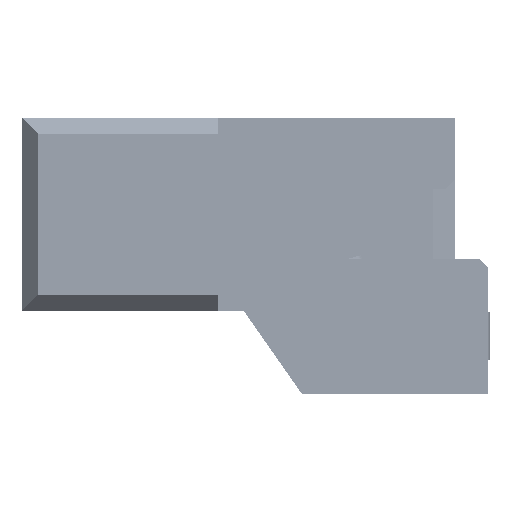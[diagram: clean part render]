
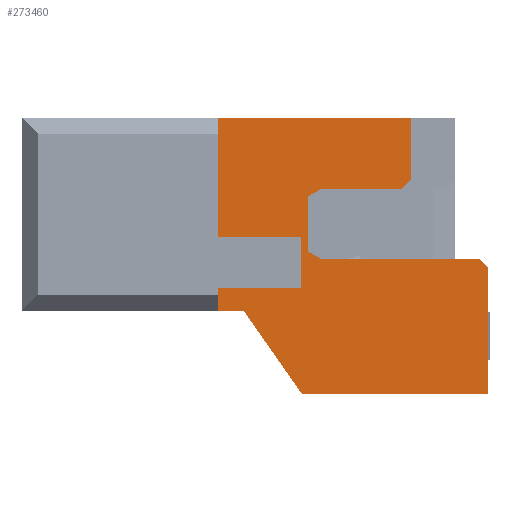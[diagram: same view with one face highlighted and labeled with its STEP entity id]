
A CAD part, left-side view. The second image highlights one B-rep face of the part: STEP entity #273460.
In plain terms, the highlighted planar face has unit normal (-1, 0, 0).
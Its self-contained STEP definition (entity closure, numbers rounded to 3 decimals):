
#2277=DIRECTION('',(0.,-1.,0.));
#2278=VECTOR('',#2277,6.03);
#2279=CARTESIAN_POINT('',(-36.5,2.8,3.));
#2280=LINE('',#2279,#2278);
#3883=DIRECTION('',(0.,0.,1.));
#3884=VECTOR('',#3883,0.7);
#3885=CARTESIAN_POINT('',(-36.5,2.8,-3.));
#3886=LINE('',#3885,#3884);
#3939=DIRECTION('',(0.,0.,1.));
#3940=VECTOR('',#3939,3.7);
#3941=CARTESIAN_POINT('',(-36.5,2.8,-0.7));
#3942=LINE('',#3941,#3940);
#3967=DIRECTION('',(0.,1.,0.));
#3968=VECTOR('',#3967,2.6);
#3969=CARTESIAN_POINT('',(-36.5,0.2,-2.3));
#3970=LINE('',#3969,#3968);
#3974=DIRECTION('',(0.,0.,-1.));
#3975=VECTOR('',#3974,1.6);
#3976=CARTESIAN_POINT('',(-36.5,0.2,-0.7));
#3977=LINE('',#3976,#3975);
#3981=DIRECTION('',(0.,-1.,0.));
#3982=VECTOR('',#3981,2.6);
#3983=CARTESIAN_POINT('',(-36.5,2.8,-0.7));
#3984=LINE('',#3983,#3982);
#3988=DIRECTION('',(0.,0.,1.));
#3989=VECTOR('',#3988,1.92);
#3990=CARTESIAN_POINT('',(-36.5,-3.23,1.08));
#3991=LINE('',#3990,#3989);
#3995=DIRECTION('',(0.,-0.707,0.707));
#3996=VECTOR('',#3995,0.424);
#3997=CARTESIAN_POINT('',(-36.5,-2.93,0.78));
#3998=LINE('',#3997,#3996);
#4002=DIRECTION('',(0.,-1.,0.));
#4003=VECTOR('',#4002,2.53);
#4004=CARTESIAN_POINT('',(-36.5,-0.4,0.78));
#4005=LINE('',#4004,#4003);
#4009=DIRECTION('',(0.,-0.866,0.5));
#4010=VECTOR('',#4009,0.462);
#4011=CARTESIAN_POINT('',(-36.5,0.,0.549));
#4012=LINE('',#4011,#4010);
#4016=DIRECTION('',(0.,0.,1.));
#4017=VECTOR('',#4016,1.698);
#4018=CARTESIAN_POINT('',(-36.5,0.,-1.149));
#4019=LINE('',#4018,#4017);
#4023=DIRECTION('',(0.,0.866,0.5));
#4024=VECTOR('',#4023,0.462);
#4025=CARTESIAN_POINT('',(-36.5,-0.4,-1.38));
#4026=LINE('',#4025,#4024);
#4030=DIRECTION('',(0.,1.,0.));
#4031=VECTOR('',#4030,4.93);
#4032=CARTESIAN_POINT('',(-36.5,-5.33,-1.38));
#4033=LINE('',#4032,#4031);
#4037=DIRECTION('',(0.,0.707,0.707));
#4038=VECTOR('',#4037,0.424);
#4039=CARTESIAN_POINT('',(-36.5,-5.63,-1.68));
#4040=LINE('',#4039,#4038);
#4044=DIRECTION('',(0.,0.,1.));
#4045=VECTOR('',#4044,3.92);
#4046=CARTESIAN_POINT('',(-36.5,-5.63,-5.6));
#4047=LINE('',#4046,#4045);
#4051=DIRECTION('',(0.,-1.,0.));
#4052=VECTOR('',#4051,5.809);
#4053=CARTESIAN_POINT('',(-36.5,0.179,-5.6));
#4054=LINE('',#4053,#4052);
#4058=DIRECTION('',(0.,-0.574,-0.819));
#4059=VECTOR('',#4058,3.174);
#4060=CARTESIAN_POINT('',(-36.5,2.,-3.));
#4061=LINE('',#4060,#4059);
#4065=DIRECTION('',(0.,-1.,0.));
#4066=VECTOR('',#4065,0.8);
#4067=CARTESIAN_POINT('',(-36.5,2.8,-3.));
#4068=LINE('',#4067,#4066);
#244604=CARTESIAN_POINT('',(-36.5,2.8,-0.7));
#244606=VERTEX_POINT('',#244604);
#244621=CARTESIAN_POINT('',(-36.5,-2.93,0.78));
#244622=CARTESIAN_POINT('',(-36.5,-3.23,1.08));
#244623=VERTEX_POINT('',#244621);
#244624=VERTEX_POINT('',#244622);
#244641=CARTESIAN_POINT('',(-36.5,2.8,-2.3));
#244643=VERTEX_POINT('',#244641);
#244645=CARTESIAN_POINT('',(-36.5,0.2,-0.7));
#244646=CARTESIAN_POINT('',(-36.5,0.2,-2.3));
#244647=VERTEX_POINT('',#244645);
#244648=VERTEX_POINT('',#244646);
#244653=CARTESIAN_POINT('',(-36.5,-0.4,-1.38));
#244654=CARTESIAN_POINT('',(-36.5,0.,-1.149));
#244655=VERTEX_POINT('',#244653);
#244656=VERTEX_POINT('',#244654);
#244667=CARTESIAN_POINT('',(-36.5,-0.4,0.78));
#244669=VERTEX_POINT('',#244667);
#244682=CARTESIAN_POINT('',(-36.5,2.,-3.));
#244684=VERTEX_POINT('',#244682);
#244687=CARTESIAN_POINT('',(-36.5,0.179,-5.6));
#244688=CARTESIAN_POINT('',(-36.5,-5.63,-5.6));
#244689=VERTEX_POINT('',#244687);
#244690=VERTEX_POINT('',#244688);
#244693=CARTESIAN_POINT('',(-36.5,-5.63,-1.68));
#244694=VERTEX_POINT('',#244693);
#244701=CARTESIAN_POINT('',(-36.5,0.,0.549));
#244702=VERTEX_POINT('',#244701);
#244703=CARTESIAN_POINT('',(-36.5,-5.33,-1.38));
#244704=VERTEX_POINT('',#244703);
#244906=CARTESIAN_POINT('',(-36.5,2.8,-3.));
#244907=VERTEX_POINT('',#244906);
#245227=CARTESIAN_POINT('',(-36.5,2.8,3.));
#245228=VERTEX_POINT('',#245227);
#245255=CARTESIAN_POINT('',(-36.5,-3.23,3.));
#245256=VERTEX_POINT('',#245255);
#273422=CARTESIAN_POINT('',(-36.5,2.8,12.822));
#273423=DIRECTION('',(1.,0.,0.));
#273424=DIRECTION('',(0.,0.,-1.));
#273425=AXIS2_PLACEMENT_3D('',#273422,#273423,#273424);
#273426=PLANE('',#273425);
#273427=ORIENTED_EDGE('',*,*,#273368,.T.);
#273429=ORIENTED_EDGE('',*,*,#273428,.F.);
#273430=ORIENTED_EDGE('',*,*,#273412,.F.);
#273432=ORIENTED_EDGE('',*,*,#273431,.F.);
#273433=ORIENTED_EDGE('',*,*,#273385,.T.);
#273434=ORIENTED_EDGE('',*,*,#272581,.T.);
#273436=ORIENTED_EDGE('',*,*,#273435,.F.);
#273438=ORIENTED_EDGE('',*,*,#273437,.F.);
#273439=ORIENTED_EDGE('',*,*,#272492,.F.);
#273441=ORIENTED_EDGE('',*,*,#273440,.F.);
#273443=ORIENTED_EDGE('',*,*,#273442,.F.);
#273445=ORIENTED_EDGE('',*,*,#273444,.F.);
#273447=ORIENTED_EDGE('',*,*,#273446,.F.);
#273449=ORIENTED_EDGE('',*,*,#273448,.F.);
#273451=ORIENTED_EDGE('',*,*,#273450,.F.);
#273453=ORIENTED_EDGE('',*,*,#273452,.F.);
#273455=ORIENTED_EDGE('',*,*,#273454,.F.);
#273457=ORIENTED_EDGE('',*,*,#273456,.F.);
#273458=EDGE_LOOP('',(#273427,#273429,#273430,#273432,#273433,#273434,#273436,
#273438,#273439,#273441,#273443,#273445,#273447,#273449,#273451,#273453,#273455,
#273457));
#273459=FACE_OUTER_BOUND('',#273458,.F.);
#272492=EDGE_CURVE('',#244669,#244623,#4005,.T.);
#272581=EDGE_CURVE('',#245228,#245256,#2280,.T.);
#273368=EDGE_CURVE('',#244907,#244643,#3886,.T.);
#273385=EDGE_CURVE('',#244606,#245228,#3942,.T.);
#273412=EDGE_CURVE('',#244647,#244648,#3977,.T.);
#273428=EDGE_CURVE('',#244648,#244643,#3970,.T.);
#273431=EDGE_CURVE('',#244606,#244647,#3984,.T.);
#273435=EDGE_CURVE('',#244624,#245256,#3991,.T.);
#273437=EDGE_CURVE('',#244623,#244624,#3998,.T.);
#273440=EDGE_CURVE('',#244702,#244669,#4012,.T.);
#273442=EDGE_CURVE('',#244656,#244702,#4019,.T.);
#273444=EDGE_CURVE('',#244655,#244656,#4026,.T.);
#273446=EDGE_CURVE('',#244704,#244655,#4033,.T.);
#273448=EDGE_CURVE('',#244694,#244704,#4040,.T.);
#273450=EDGE_CURVE('',#244690,#244694,#4047,.T.);
#273452=EDGE_CURVE('',#244689,#244690,#4054,.T.);
#273454=EDGE_CURVE('',#244684,#244689,#4061,.T.);
#273456=EDGE_CURVE('',#244907,#244684,#4068,.T.);
#273460=ADVANCED_FACE('',(#273459),#273426,.F.);
